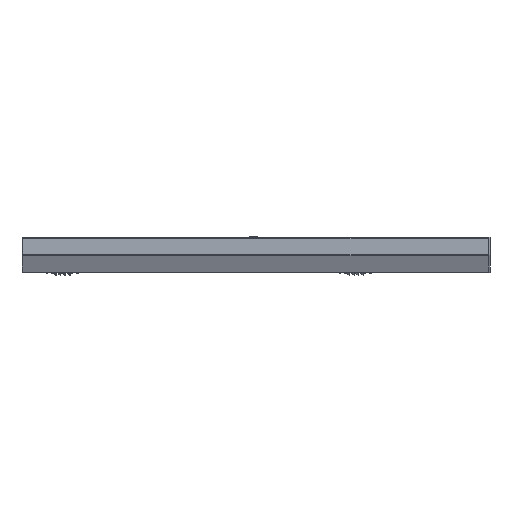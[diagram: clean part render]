
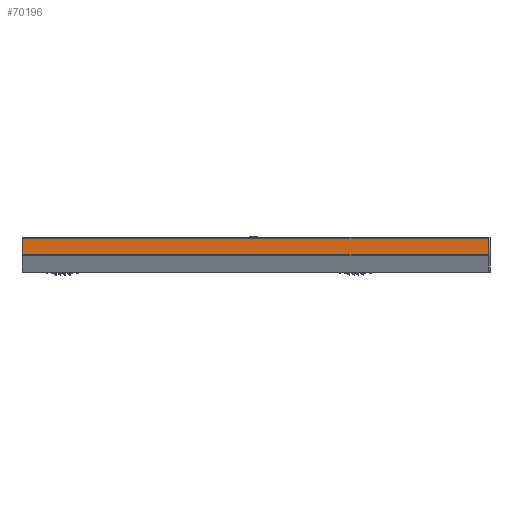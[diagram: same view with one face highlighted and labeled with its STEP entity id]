
A CAD part, left-side view. The second image highlights one B-rep face of the part: STEP entity #70196.
In plain terms, the highlighted planar face has unit normal (-1, 0, 0).
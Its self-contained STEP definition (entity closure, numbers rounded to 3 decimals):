
#1226 = VERTEX_POINT ( 'NONE', #78540 ) ;
#3223 = DIRECTION ( 'NONE',  ( 0., 1., 0. ) ) ;
#9822 = PLANE ( 'NONE',  #25518 ) ;
#11526 = ORIENTED_EDGE ( 'NONE', *, *, #18375, .T. ) ;
#14202 = CARTESIAN_POINT ( 'NONE',  ( -132.5, -1.096, 0. ) ) ;
#14995 = ORIENTED_EDGE ( 'NONE', *, *, #129541, .F. ) ;
#18375 = EDGE_CURVE ( 'NONE', #61068, #1226, #68259, .T. ) ;
#20641 = EDGE_CURVE ( 'NONE', #32102, #98503, #64365, .T. ) ;
#25518 = AXIS2_PLACEMENT_3D ( 'NONE', #87850, #68396, #77498 ) ;
#32102 = VERTEX_POINT ( 'NONE', #79137 ) ;
#36031 = VECTOR ( 'NONE', #92238, 1000. ) ;
#37752 = VECTOR ( 'NONE', #121930, 1000. ) ;
#37790 = CARTESIAN_POINT ( 'NONE',  ( -132.5, -1.096, 1985. ) ) ;
#41619 = EDGE_CURVE ( 'NONE', #32102, #61068, #138324, .T. ) ;
#46664 = LINE ( 'NONE', #14202, #36031 ) ;
#53885 = ORIENTED_EDGE ( 'NONE', *, *, #41619, .T. ) ;
#61068 = VERTEX_POINT ( 'NONE', #73804 ) ;
#64365 = LINE ( 'NONE', #98226, #90745 ) ;
#68259 = LINE ( 'NONE', #113157, #37752 ) ;
#68396 = DIRECTION ( 'NONE',  ( -1., 0., 0. ) ) ;
#70196 = ADVANCED_FACE ( 'NONE', ( #120802 ), #9822, .T. ) ;
#73804 = CARTESIAN_POINT ( 'NONE',  ( -132.5, -1.096, 1985. ) ) ;
#75711 = ORIENTED_EDGE ( 'NONE', *, *, #20641, .F. ) ;
#77498 = DIRECTION ( 'NONE',  ( 0., 0., 1. ) ) ;
#78540 = CARTESIAN_POINT ( 'NONE',  ( -132.5, -1.096, 0. ) ) ;
#79137 = CARTESIAN_POINT ( 'NONE',  ( -132.5, -71., 1985. ) ) ;
#85477 = CARTESIAN_POINT ( 'NONE',  ( -132.5, -71., 0. ) ) ;
#87850 = CARTESIAN_POINT ( 'NONE',  ( -132.5, -1.096, 1985. ) ) ;
#90745 = VECTOR ( 'NONE', #142876, 1000. ) ;
#92238 = DIRECTION ( 'NONE',  ( 0., 1., 0. ) ) ;
#98226 = CARTESIAN_POINT ( 'NONE',  ( -132.5, -71., 1985. ) ) ;
#98503 = VERTEX_POINT ( 'NONE', #85477 ) ;
#113157 = CARTESIAN_POINT ( 'NONE',  ( -132.5, -1.096, 1985. ) ) ;
#120802 = FACE_OUTER_BOUND ( 'NONE', #132602, .T. ) ;
#121930 = DIRECTION ( 'NONE',  ( 0., 0., -1. ) ) ;
#129541 = EDGE_CURVE ( 'NONE', #98503, #1226, #46664, .T. ) ;
#129983 = VECTOR ( 'NONE', #3223, 1000. ) ;
#132602 = EDGE_LOOP ( 'NONE', ( #14995, #75711, #53885, #11526 ) ) ;
#138324 = LINE ( 'NONE', #37790, #129983 ) ;
#142876 = DIRECTION ( 'NONE',  ( 0., 0., -1. ) ) ;
